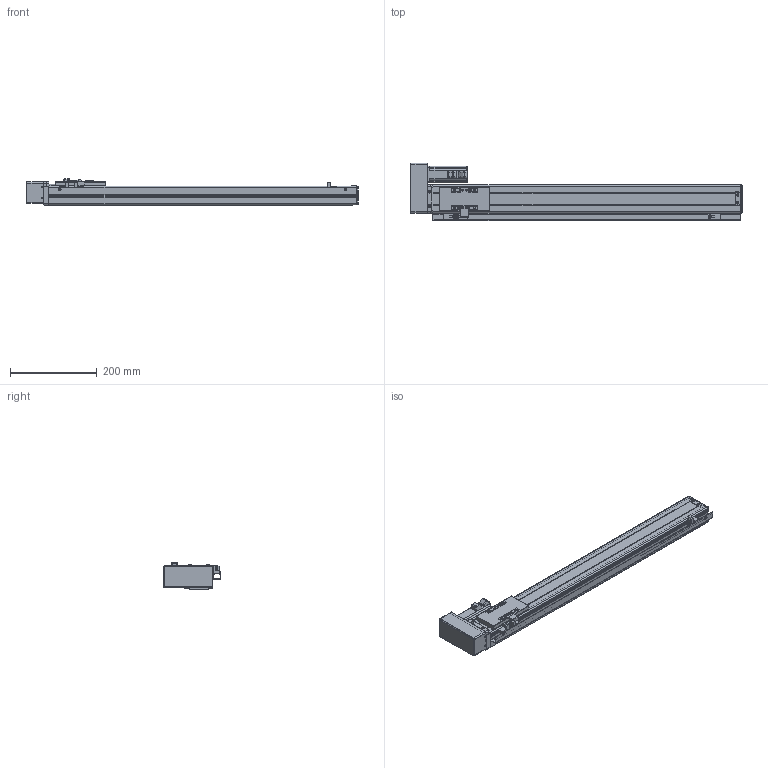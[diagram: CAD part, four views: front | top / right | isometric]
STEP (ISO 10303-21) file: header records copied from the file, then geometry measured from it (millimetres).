
FILE_DESCRIPTION (( 'STEP AP203' ), '1' );
FILE_NAME ('VT6-L10-C-S560-BR-P10-D4.STEP', '2015-10-26T06:17:49', ( '' ), ( '' ), 'SwSTEP 2.0', 'SolidWorks 2013', '' );
FILE_SCHEMA (( 'CONFIG_CONTROL_DESIGN' ));
Length unit declared in the file: millimetre
Products named in the file (17): T6-賑雄殤; T6-裔啣; T6-揤輸; T6-綴傷裔; ET6-BLRM絳寢_俴最560; ET6-BLRM滅鳥湍_560; T6-BMRL肮祭湍謫欶; ET6-BLRM佪裝_560; ET6-BC癹弇羲壽羞_560; T6-BMLRヶ傷裔; T6-BMRLヶ傷裔揤啣; ET6-BC耜啣_560; VT6-L10-C-S560-BR-P10-D4; 侂狟100W MSMD012G1U; T6-覜茼え; T6-BRL萇儂假蚾啣; EE-XS674
Assembly tree (19 placements, depth 2):
  VT6-L10-C-S560-BR-P10-D4
    ET6-BC耜啣_560  x2
    T6-賑雄殤
    T6-裔啣
    T6-揤輸
    T6-綴傷裔
    ET6-BLRM絳寢_俴最560
    ET6-BLRM滅鳥湍_560
    ET6-BLRM佪裝_560
    T6-BMLRヶ傷裔
    T6-BMRLヶ傷裔揤啣
    T6-BMRL肮祭湍謫欶
    侂狟100W MSMD012G1U
    T6-BRL萇儂假蚾啣
    T6-覜茼え
    ET6-BC癹弇羲壽羞_560
    EE-XS674  x3
Bounding box: 767 x 133 x 61 mm (x, y, z)
Volume: 913325.4 mm3; surface area: 581501.1 mm2
Topology: 19 solids, 19 shells, 913 faces, 2424 edges, 1536 vertices
Faces by surface type: cylinder 439, plane 374, cone 46, torus 36, sphere 18
Entity records: 28285 total; most frequent: CARTESIAN_POINT 4753, DIRECTION 4742, ORIENTED_EDGE 4366, EDGE_CURVE 2183, AXIS2_PLACEMENT_3D 1745, VERTEX_POINT 1396, LINE 1252, VECTOR 1252
